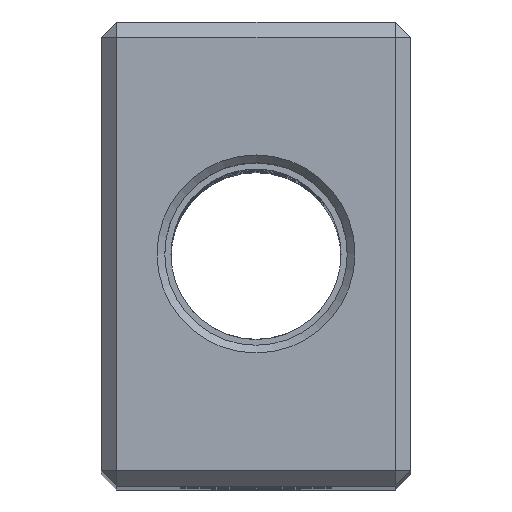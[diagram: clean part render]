
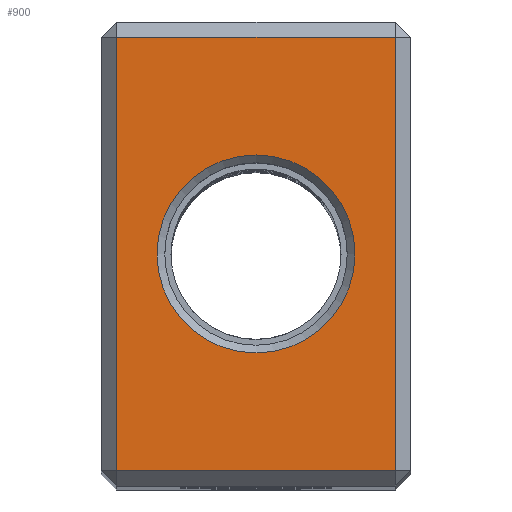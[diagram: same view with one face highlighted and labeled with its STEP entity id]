
A CAD part, top view. The second image highlights one B-rep face of the part: STEP entity #900.
In plain terms, the highlighted planar face has unit normal (0, 0, 1).
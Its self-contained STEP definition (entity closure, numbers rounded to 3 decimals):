
#51=FACE_BOUND('',#183,.T.);
#71=PLANE('',#1004);
#116=FACE_OUTER_BOUND('',#182,.T.);
#182=EDGE_LOOP('',(#718,#719,#720,#721));
#183=EDGE_LOOP('',(#722));
#263=LINE('',#1735,#338);
#264=LINE('',#1737,#339);
#265=LINE('',#1739,#340);
#266=LINE('',#1740,#341);
#338=VECTOR('',#1177,10.);
#339=VECTOR('',#1178,10.);
#340=VECTOR('',#1179,10.);
#341=VECTOR('',#1180,10.);
#407=CIRCLE('',#1001,6.4);
#465=VERTEX_POINT('',#1725);
#468=VERTEX_POINT('',#1733);
#469=VERTEX_POINT('',#1734);
#470=VERTEX_POINT('',#1736);
#471=VERTEX_POINT('',#1738);
#554=EDGE_CURVE('',#465,#465,#407,.T.);
#558=EDGE_CURVE('',#468,#469,#263,.T.);
#559=EDGE_CURVE('',#470,#468,#264,.T.);
#560=EDGE_CURVE('',#471,#470,#265,.T.);
#561=EDGE_CURVE('',#469,#471,#266,.T.);
#718=ORIENTED_EDGE('',*,*,#558,.F.);
#719=ORIENTED_EDGE('',*,*,#559,.F.);
#720=ORIENTED_EDGE('',*,*,#560,.F.);
#721=ORIENTED_EDGE('',*,*,#561,.F.);
#722=ORIENTED_EDGE('',*,*,#554,.F.);
#900=ADVANCED_FACE('',(#116,#51),#71,.T.);
#1001=AXIS2_PLACEMENT_3D('',#1726,#1168,#1169);
#1004=AXIS2_PLACEMENT_3D('',#1732,#1175,#1176);
#1168=DIRECTION('center_axis',(0.,0.,1.));
#1169=DIRECTION('ref_axis',(-1.,0.,0.));
#1175=DIRECTION('center_axis',(0.,0.,1.));
#1176=DIRECTION('ref_axis',(1.,0.,0.));
#1177=DIRECTION('',(1.,0.,0.));
#1178=DIRECTION('',(0.,1.,0.));
#1179=DIRECTION('',(-1.,0.,0.));
#1180=DIRECTION('',(0.,-1.,0.));
#1725=CARTESIAN_POINT('',(6.4,0.,75.));
#1726=CARTESIAN_POINT('Origin',(0.,0.,75.));
#1732=CARTESIAN_POINT('Origin',(0.,0.,75.));
#1733=CARTESIAN_POINT('',(-9.,14.,75.));
#1734=CARTESIAN_POINT('',(9.,14.,75.));
#1735=CARTESIAN_POINT('',(5.,14.,75.));
#1736=CARTESIAN_POINT('',(-9.,-14.,75.));
#1737=CARTESIAN_POINT('',(-9.,7.5,75.));
#1738=CARTESIAN_POINT('',(9.,-14.,75.));
#1739=CARTESIAN_POINT('',(-5.,-14.,75.));
#1740=CARTESIAN_POINT('',(9.,-7.5,75.));
